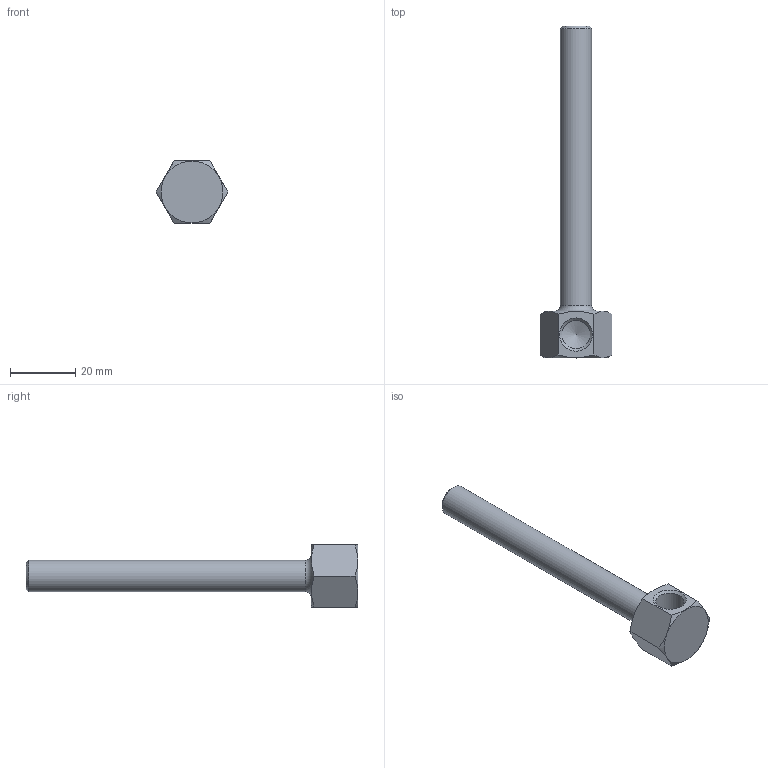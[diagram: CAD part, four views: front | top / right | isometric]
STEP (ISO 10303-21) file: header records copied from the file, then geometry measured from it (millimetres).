
FILE_DESCRIPTION(/* description */ (''),/* implementation_level */ '2;1');
FILE_NAME(/* name */ 'C:/Users/drich/Desktop/18B-4 v1.step',/* time_stamp */ '2019-12-29T15:20:42-06:00',/* author */ (''),/* organization */ (''),/* preprocessor_version */ 'ST-DEVELOPER v18',/* originating_system */ 'Autodesk Translation Framework v8.12.0.6',/* authorisation */ '');
FILE_SCHEMA (('AUTOMOTIVE_DESIGN { 1 0 10303 214 3 1 1 }'));
Length unit declared in the file: inch
Products named in the file (1): 18B-4
Bounding box: 22 x 101.6 x 19.05 mm (x, y, z)
Volume: 7170.7 mm3; surface area: 6224.9 mm2
Topology: 1 solids, 1 shells, 19 faces, 48 edges, 31 vertices
Faces by surface type: plane 9, cone 6, cylinder 3, torus 1
Full cylindrical faces by diameter (mm): 6.35 x1, 8.707 x1, 9.621 x1
Entity records: 633 total; most frequent: CARTESIAN_POINT 159, ORIENTED_EDGE 94, DIRECTION 89, EDGE_CURVE 47, AXIS2_PLACEMENT_3D 37, VERTEX_POINT 31, EDGE_LOOP 22, FACE_OUTER_BOUND 19
